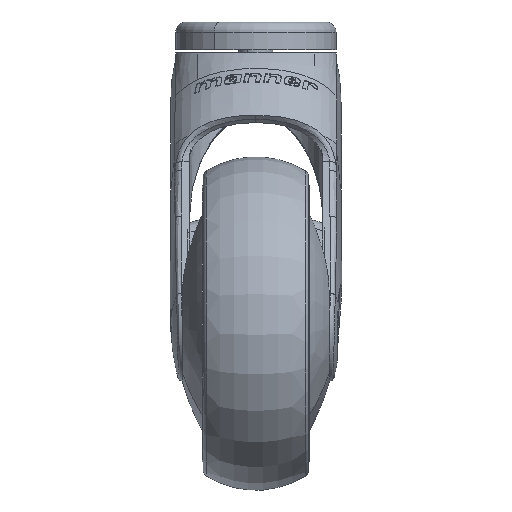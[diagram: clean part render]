
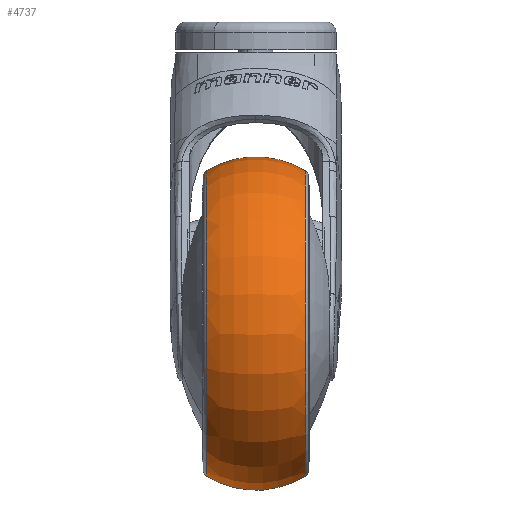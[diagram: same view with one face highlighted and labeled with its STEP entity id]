
A CAD part, left-side view. The second image highlights one B-rep face of the part: STEP entity #4737.
In plain terms, the highlighted toroidal (fillet/blend) face has major radius 22 mm and minor radius 28 mm.
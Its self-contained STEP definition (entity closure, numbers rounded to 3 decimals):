
#4677 = EDGE_CURVE ( 'NONE', #4692, #4678, #41122, .T. ) ;
#4678 = VERTEX_POINT ( 'NONE', #41182 ) ;
#4681 = VERTEX_POINT ( 'NONE', #41176 ) ;
#4683 = EDGE_CURVE ( 'NONE', #4693, #4681, #41175, .T. ) ;
#4691 = EDGE_CURVE ( 'NONE', #4692, #4693, #41154, .T. ) ;
#4692 = VERTEX_POINT ( 'NONE', #41219 ) ;
#4693 = VERTEX_POINT ( 'NONE', #41218 ) ;
#4714 = ORIENTED_EDGE ( 'NONE', *, *, #4691, .T. ) ;
#4715 = ORIENTED_EDGE ( 'NONE', *, *, #4683, .T. ) ;
#4716 = ORIENTED_EDGE ( 'NONE', *, *, #4734, .F. ) ;
#4734 = EDGE_CURVE ( 'NONE', #4678, #4681, #41267, .T. ) ;
#4737 = ADVANCED_FACE ( 'NONE', ( #41263 ), #41262, .T. ) ;
#4738 = EDGE_LOOP ( 'NONE', ( #4792, #4714, #4715, #4716 ) ) ;
#4792 = ORIENTED_EDGE ( 'NONE', *, *, #4677, .F. ) ;
#41122 = CIRCLE ( 'NONE', #41186, 28. ) ;
#41153 = AXIS2_PLACEMENT_3D ( 'NONE', #41160, #41222, #41220 ) ;
#41154 = CIRCLE ( 'NONE', #41153, 45.764 ) ;
#41160 = CARTESIAN_POINT ( 'NONE',  ( -45.078, 14.808, 19. ) ) ;
#41171 = DIRECTION ( 'NONE',  ( 0.055, 0., 0.998 ) ) ;
#41172 = DIRECTION ( 'NONE',  ( -0.998, 0., 0.055 ) ) ;
#41173 = CARTESIAN_POINT ( 'NONE',  ( -46.283, 0., -2.967 ) ) ;
#41174 = AXIS2_PLACEMENT_3D ( 'NONE', #41173, #41172, #41171 ) ;
#41175 = CIRCLE ( 'NONE', #41174, 28. ) ;
#41176 = CARTESIAN_POINT ( 'NONE',  ( -47.585, -14.808, -26.695 ) ) ;
#41182 = CARTESIAN_POINT ( 'NONE',  ( -42.571, -14.808, 64.695 ) ) ;
#41183 = DIRECTION ( 'NONE',  ( -0.055, 0., -0.998 ) ) ;
#41184 = DIRECTION ( 'NONE',  ( 0.998, 0., -0.055 ) ) ;
#41185 = CARTESIAN_POINT ( 'NONE',  ( -43.873, 0., 40.967 ) ) ;
#41186 = AXIS2_PLACEMENT_3D ( 'NONE', #41185, #41184, #41183 ) ;
#41218 = CARTESIAN_POINT ( 'NONE',  ( -47.585, 14.808, -26.695 ) ) ;
#41219 = CARTESIAN_POINT ( 'NONE',  ( -42.571, 14.808, 64.695 ) ) ;
#41220 = DIRECTION ( 'NONE',  ( -0.055, 0., -0.998 ) ) ;
#41222 = DIRECTION ( 'NONE',  ( 0., -1., 0. ) ) ;
#41257 = DIRECTION ( 'NONE',  ( -0.055, 0., -0.998 ) ) ;
#41258 = DIRECTION ( 'NONE',  ( 0., -1., 0. ) ) ;
#41259 = CARTESIAN_POINT ( 'NONE',  ( -45.078, 0., 19. ) ) ;
#41260 = AXIS2_PLACEMENT_3D ( 'NONE', #41259, #41258, #41257 ) ;
#41262 = TOROIDAL_SURFACE ( 'NONE', #41260, 22., 28. ) ;
#41263 = FACE_OUTER_BOUND ( 'NONE', #4738, .T. ) ;
#41264 = DIRECTION ( 'NONE',  ( -0.055, 0., -0.998 ) ) ;
#41265 = DIRECTION ( 'NONE',  ( 0., -1., 0. ) ) ;
#41266 = AXIS2_PLACEMENT_3D ( 'NONE', #41272, #41265, #41264 ) ;
#41267 = CIRCLE ( 'NONE', #41266, 45.764 ) ;
#41272 = CARTESIAN_POINT ( 'NONE',  ( -45.078, -14.808, 19. ) ) ;
